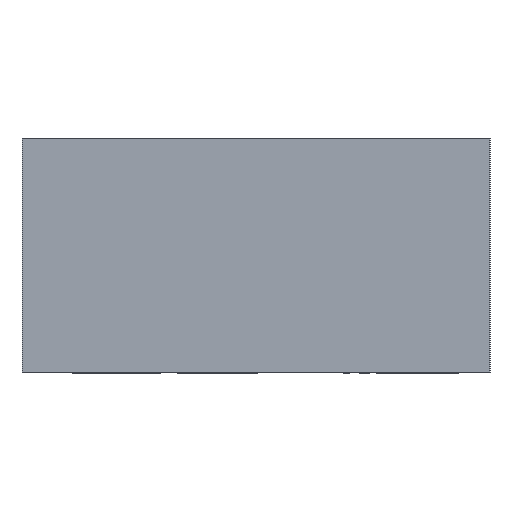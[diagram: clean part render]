
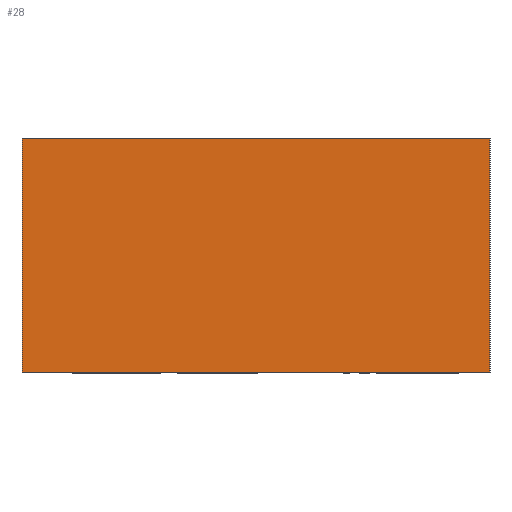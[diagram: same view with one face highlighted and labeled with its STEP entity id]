
A CAD part, left-side view. The second image highlights one B-rep face of the part: STEP entity #28.
In plain terms, the highlighted planar face has unit normal (-1, 0, 0).
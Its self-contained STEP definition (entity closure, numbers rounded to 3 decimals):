
#28=ADVANCED_FACE('',(#66),#846,.T.);
#66=FACE_OUTER_BOUND('',#100,.T.);
#100=EDGE_LOOP('',(#158,#159,#160,#161));
#158=ORIENTED_EDGE('',*,*,#628,.F.);
#159=ORIENTED_EDGE('',*,*,#617,.F.);
#160=ORIENTED_EDGE('',*,*,#614,.F.);
#161=ORIENTED_EDGE('',*,*,#602,.F.);
#302=PCURVE('',#842,#422);
#314=PCURVE('',#843,#434);
#318=PCURVE('',#844,#438);
#330=PCURVE('',#845,#450);
#334=PCURVE('',#846,#454);
#335=PCURVE('',#846,#455);
#336=PCURVE('',#846,#456);
#337=PCURVE('',#846,#457);
#422=DEFINITIONAL_REPRESENTATION('',(#663),#2173);
#434=DEFINITIONAL_REPRESENTATION('',(#679),#2173);
#438=DEFINITIONAL_REPRESENTATION('',(#686),#2173);
#450=DEFINITIONAL_REPRESENTATION('',(#701),#2173);
#454=DEFINITIONAL_REPRESENTATION('',(#706),#2173);
#455=DEFINITIONAL_REPRESENTATION('',(#707),#2173);
#456=DEFINITIONAL_REPRESENTATION('',(#708),#2173);
#457=DEFINITIONAL_REPRESENTATION('',(#709),#2173);
#542=SURFACE_CURVE('',#662,(#302,#337),.PCURVE_S1.);
#554=SURFACE_CURVE('',#678,(#314,#336),.PCURVE_S1.);
#557=SURFACE_CURVE('',#685,(#318,#335),.PCURVE_S1.);
#568=SURFACE_CURVE('',#700,(#330,#334),.PCURVE_S1.);
#602=EDGE_CURVE('',#786,#787,#542,.T.);
#614=EDGE_CURVE('',#787,#790,#554,.T.);
#617=EDGE_CURVE('',#790,#792,#557,.T.);
#628=EDGE_CURVE('',#792,#786,#568,.T.);
#662=B_SPLINE_CURVE_WITH_KNOTS('',1,(#1236,#1237),.UNSPECIFIED.,.F.,.F.,
(2,2),(0.,40.),.UNSPECIFIED.);
#663=B_SPLINE_CURVE_WITH_KNOTS('',1,(#1238,#1239),.UNSPECIFIED.,.F.,.F.,
(2,2),(0.,40.),.UNSPECIFIED.);
#678=B_SPLINE_CURVE_WITH_KNOTS('',1,(#1492,#1493),.UNSPECIFIED.,.F.,.F.,
(2,2),(40.,60.),.UNSPECIFIED.);
#679=B_SPLINE_CURVE_WITH_KNOTS('',1,(#1494,#1495),.UNSPECIFIED.,.F.,.F.,
(2,2),(40.,60.),.UNSPECIFIED.);
#685=B_SPLINE_CURVE_WITH_KNOTS('',1,(#1506,#1507),.UNSPECIFIED.,.F.,.F.,
(2,2),(60.,100.),.UNSPECIFIED.);
#686=B_SPLINE_CURVE_WITH_KNOTS('',1,(#1508,#1509),.UNSPECIFIED.,.F.,.F.,
(2,2),(60.,100.),.UNSPECIFIED.);
#700=B_SPLINE_CURVE_WITH_KNOTS('',1,(#1760,#1761),.UNSPECIFIED.,.F.,.F.,
(2,2),(100.,120.),.UNSPECIFIED.);
#701=B_SPLINE_CURVE_WITH_KNOTS('',1,(#1762,#1763),.UNSPECIFIED.,.F.,.F.,
(2,2),(100.,120.),.UNSPECIFIED.);
#706=B_SPLINE_CURVE_WITH_KNOTS('',1,(#1772,#1773),.UNSPECIFIED.,.F.,.F.,
(2,2),(100.,120.),.UNSPECIFIED.);
#707=B_SPLINE_CURVE_WITH_KNOTS('',1,(#1774,#1775),.UNSPECIFIED.,.F.,.F.,
(2,2),(60.,100.),.UNSPECIFIED.);
#708=B_SPLINE_CURVE_WITH_KNOTS('',1,(#1776,#1777),.UNSPECIFIED.,.F.,.F.,
(2,2),(40.,60.),.UNSPECIFIED.);
#709=B_SPLINE_CURVE_WITH_KNOTS('',1,(#1778,#1779),.UNSPECIFIED.,.F.,.F.,
(2,2),(0.,40.),.UNSPECIFIED.);
#786=VERTEX_POINT('',#1196);
#787=VERTEX_POINT('',#1197);
#790=VERTEX_POINT('',#1200);
#792=VERTEX_POINT('',#1202);
#842=PLANE('',#872);
#843=PLANE('',#873);
#844=PLANE('',#874);
#845=PLANE('',#875);
#846=PLANE('',#876);
#872=AXIS2_PLACEMENT_3D('',#898,#885,$);
#873=AXIS2_PLACEMENT_3D('',#899,#886,$);
#874=AXIS2_PLACEMENT_3D('',#900,#887,$);
#875=AXIS2_PLACEMENT_3D('',#901,#888,$);
#876=AXIS2_PLACEMENT_3D('',#902,#889,$);
#885=DIRECTION('',(0.,0.,-1.));
#886=DIRECTION('',(0.,1.,0.));
#887=DIRECTION('',(0.,0.,1.));
#888=DIRECTION('',(0.,-1.,0.));
#889=DIRECTION('',(-1.,0.,0.));
#898=CARTESIAN_POINT('',(-791.,35.,-36.));
#899=CARTESIAN_POINT('',(-791.,75.,-36.));
#900=CARTESIAN_POINT('',(-791.,75.,-16.));
#901=CARTESIAN_POINT('',(-791.,35.,-16.));
#902=CARTESIAN_POINT('',(-791.,35.,-36.));
#1196=CARTESIAN_POINT('',(-791.,35.,-36.));
#1197=CARTESIAN_POINT('',(-791.,75.,-36.));
#1200=CARTESIAN_POINT('',(-791.,75.,-16.));
#1202=CARTESIAN_POINT('',(-791.,35.,-16.));
#1236=CARTESIAN_POINT('',(-791.,35.,-36.));
#1237=CARTESIAN_POINT('',(-791.,75.,-36.));
#1238=CARTESIAN_POINT('',(0.,0.));
#1239=CARTESIAN_POINT('',(40.,0.));
#1492=CARTESIAN_POINT('',(-791.,75.,-36.));
#1493=CARTESIAN_POINT('',(-791.,75.,-16.));
#1494=CARTESIAN_POINT('',(40.,0.));
#1495=CARTESIAN_POINT('',(60.,0.));
#1506=CARTESIAN_POINT('',(-791.,75.,-16.));
#1507=CARTESIAN_POINT('',(-791.,35.,-16.));
#1508=CARTESIAN_POINT('',(60.,0.));
#1509=CARTESIAN_POINT('',(100.,0.));
#1760=CARTESIAN_POINT('',(-791.,35.,-16.));
#1761=CARTESIAN_POINT('',(-791.,35.,-36.));
#1762=CARTESIAN_POINT('',(100.,0.));
#1763=CARTESIAN_POINT('',(120.,0.));
#1772=CARTESIAN_POINT('',(20.,0.));
#1773=CARTESIAN_POINT('',(0.,0.));
#1774=CARTESIAN_POINT('',(20.,40.));
#1775=CARTESIAN_POINT('',(20.,0.));
#1776=CARTESIAN_POINT('',(0.,40.));
#1777=CARTESIAN_POINT('',(20.,40.));
#1778=CARTESIAN_POINT('',(0.,0.));
#1779=CARTESIAN_POINT('',(0.,40.));
#2173=(
GEOMETRIC_REPRESENTATION_CONTEXT(2)
PARAMETRIC_REPRESENTATION_CONTEXT()
REPRESENTATION_CONTEXT('pspace','')
);
